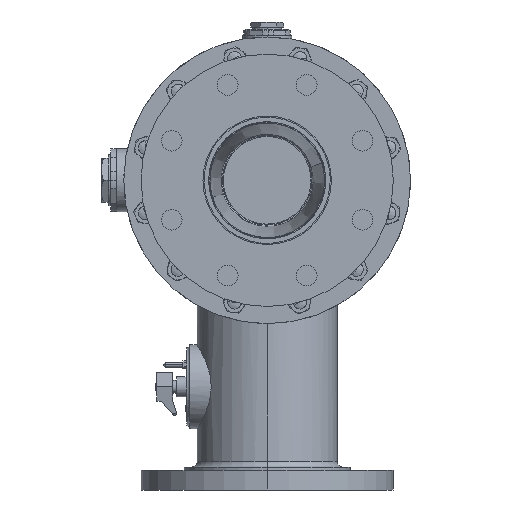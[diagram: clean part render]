
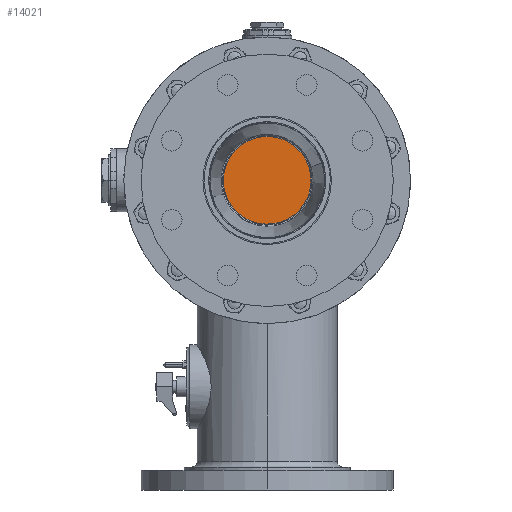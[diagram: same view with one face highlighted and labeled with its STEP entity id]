
A CAD part, left-side view. The second image highlights one B-rep face of the part: STEP entity #14021.
In plain terms, the highlighted planar face has unit normal (-1, 0, 0).
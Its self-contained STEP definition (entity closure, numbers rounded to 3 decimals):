
#2716 = PLANE ( 'NONE',  #17547 ) ;
#6423 = EDGE_CURVE ( 'NONE', #8447, #47170, #16063, .T. ) ;
#7192 = CARTESIAN_POINT ( 'NONE',  ( 80., 0., -38.249 ) ) ;
#7637 = ORIENTED_EDGE ( 'NONE', *, *, #6423, .T. ) ;
#8447 = VERTEX_POINT ( 'NONE', #7192 ) ;
#11074 = AXIS2_PLACEMENT_3D ( 'NONE', #32661, #55476, #28291 ) ;
#11871 = DIRECTION ( 'NONE',  ( 0., 0., -1. ) ) ;
#14021 = ADVANCED_FACE ( 'NONE', ( #38324 ), #2716, .F. ) ;
#16063 = CIRCLE ( 'NONE', #55464, 38.249 ) ;
#17547 = AXIS2_PLACEMENT_3D ( 'NONE', #34604, #39176, #11871 ) ;
#18078 = EDGE_LOOP ( 'NONE', ( #24929, #7637 ) ) ;
#24929 = ORIENTED_EDGE ( 'NONE', *, *, #33395, .T. ) ;
#28291 = DIRECTION ( 'NONE',  ( 0., 0., 1. ) ) ;
#30644 = CARTESIAN_POINT ( 'NONE',  ( 80., 0., 0. ) ) ;
#31351 = CIRCLE ( 'NONE', #11074, 38.249 ) ;
#32661 = CARTESIAN_POINT ( 'NONE',  ( 80., 0., 0. ) ) ;
#33395 = EDGE_CURVE ( 'NONE', #47170, #8447, #31351, .T. ) ;
#34604 = CARTESIAN_POINT ( 'NONE',  ( 80., 38.249, 0. ) ) ;
#36245 = CARTESIAN_POINT ( 'NONE',  ( 80., 0., 38.249 ) ) ;
#38324 = FACE_OUTER_BOUND ( 'NONE', #18078, .T. ) ;
#39176 = DIRECTION ( 'NONE',  ( 1., 0., 0. ) ) ;
#47170 = VERTEX_POINT ( 'NONE', #36245 ) ;
#48473 = DIRECTION ( 'NONE',  ( -1., 0., 0. ) ) ;
#53241 = DIRECTION ( 'NONE',  ( 0., 0., 1. ) ) ;
#55464 = AXIS2_PLACEMENT_3D ( 'NONE', #30644, #48473, #53241 ) ;
#55476 = DIRECTION ( 'NONE',  ( -1., 0., 0. ) ) ;
